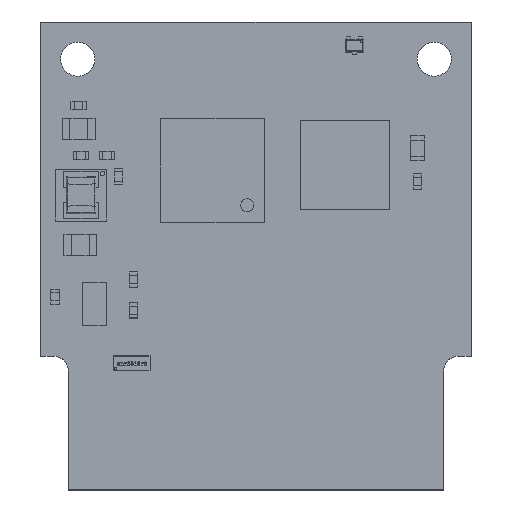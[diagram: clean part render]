
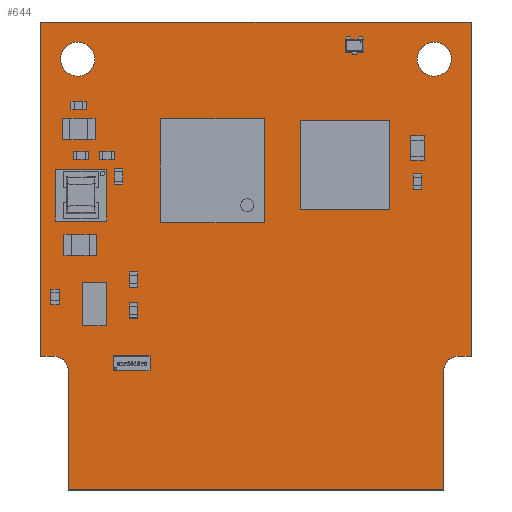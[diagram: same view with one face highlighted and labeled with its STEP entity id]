
A CAD part, top view. The second image highlights one B-rep face of the part: STEP entity #644.
In plain terms, the highlighted planar face has unit normal (0, 0, 1).
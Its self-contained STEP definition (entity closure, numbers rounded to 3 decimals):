
#247 = VERTEX_POINT('',#248);
#248 = CARTESIAN_POINT('',(-0.63,-21.,0.));
#254 = EDGE_CURVE('',#247,#255,#257,.T.);
#255 = VERTEX_POINT('',#256);
#256 = CARTESIAN_POINT('',(-1.63,-20.,0.));
#257 = CIRCLE('',#258,1.);
#258 = AXIS2_PLACEMENT_3D('',#259,#260,#261);
#259 = CARTESIAN_POINT('',(-1.63,-21.,0.));
#260 = DIRECTION('',(0.,0.,1.));
#261 = DIRECTION('',(1.,0.,0.));
#287 = EDGE_CURVE('',#255,#288,#290,.T.);
#288 = VERTEX_POINT('',#289);
#289 = CARTESIAN_POINT('',(-2.5,-20.,0.));
#290 = LINE('',#291,#292);
#291 = CARTESIAN_POINT('',(-1.63,-20.,0.));
#292 = VECTOR('',#293,1.);
#293 = DIRECTION('',(-1.,0.,0.));
#318 = EDGE_CURVE('',#288,#319,#321,.T.);
#319 = VERTEX_POINT('',#320);
#320 = CARTESIAN_POINT('',(-2.5,2.5,0.));
#321 = LINE('',#322,#323);
#322 = CARTESIAN_POINT('',(-2.5,-20.,0.));
#323 = VECTOR('',#324,1.);
#324 = DIRECTION('',(0.,1.,0.));
#349 = EDGE_CURVE('',#319,#350,#352,.T.);
#350 = VERTEX_POINT('',#351);
#351 = CARTESIAN_POINT('',(26.5,2.5,0.));
#352 = LINE('',#353,#354);
#353 = CARTESIAN_POINT('',(-2.5,2.5,0.));
#354 = VECTOR('',#355,1.);
#355 = DIRECTION('',(1.,0.,0.));
#380 = EDGE_CURVE('',#350,#381,#383,.T.);
#381 = VERTEX_POINT('',#382);
#382 = CARTESIAN_POINT('',(26.5,-20.,0.));
#383 = LINE('',#384,#385);
#384 = CARTESIAN_POINT('',(26.5,2.5,0.));
#385 = VECTOR('',#386,1.);
#386 = DIRECTION('',(0.,-1.,0.));
#411 = EDGE_CURVE('',#381,#412,#414,.T.);
#412 = VERTEX_POINT('',#413);
#413 = CARTESIAN_POINT('',(25.63,-20.,0.));
#414 = LINE('',#415,#416);
#415 = CARTESIAN_POINT('',(26.5,-20.,0.));
#416 = VECTOR('',#417,1.);
#417 = DIRECTION('',(-1.,0.,0.));
#442 = EDGE_CURVE('',#412,#443,#445,.T.);
#443 = VERTEX_POINT('',#444);
#444 = CARTESIAN_POINT('',(24.63,-21.,0.));
#445 = CIRCLE('',#446,1.);
#446 = AXIS2_PLACEMENT_3D('',#447,#448,#449);
#447 = CARTESIAN_POINT('',(25.63,-21.,0.));
#448 = DIRECTION('',(0.,0.,1.));
#449 = DIRECTION('',(0.,1.,0.));
#475 = EDGE_CURVE('',#443,#476,#478,.T.);
#476 = VERTEX_POINT('',#477);
#477 = CARTESIAN_POINT('',(24.63,-29.,0.));
#478 = LINE('',#479,#480);
#479 = CARTESIAN_POINT('',(24.63,-21.,0.));
#480 = VECTOR('',#481,1.);
#481 = DIRECTION('',(0.,-1.,0.));
#506 = EDGE_CURVE('',#476,#507,#509,.T.);
#507 = VERTEX_POINT('',#508);
#508 = CARTESIAN_POINT('',(-0.63,-29.,0.));
#509 = LINE('',#510,#511);
#510 = CARTESIAN_POINT('',(24.63,-29.,0.));
#511 = VECTOR('',#512,1.);
#512 = DIRECTION('',(-1.,0.,0.));
#537 = EDGE_CURVE('',#507,#247,#538,.T.);
#538 = LINE('',#539,#540);
#539 = CARTESIAN_POINT('',(-0.63,-29.,0.));
#540 = VECTOR('',#541,1.);
#541 = DIRECTION('',(0.,1.,0.));
#561 = VERTEX_POINT('',#562);
#562 = CARTESIAN_POINT('',(1.15,0.,0.));
#568 = EDGE_CURVE('',#561,#561,#569,.T.);
#569 = CIRCLE('',#570,1.15);
#570 = AXIS2_PLACEMENT_3D('',#571,#572,#573);
#571 = CARTESIAN_POINT('',(0.,0.,0.));
#572 = DIRECTION('',(0.,0.,1.));
#573 = DIRECTION('',(1.,0.,0.));
#594 = VERTEX_POINT('',#595);
#595 = CARTESIAN_POINT('',(25.15,0.,0.));
#601 = EDGE_CURVE('',#594,#594,#602,.T.);
#602 = CIRCLE('',#603,1.15);
#603 = AXIS2_PLACEMENT_3D('',#604,#605,#606);
#604 = CARTESIAN_POINT('',(24.,0.,0.));
#605 = DIRECTION('',(0.,0.,1.));
#606 = DIRECTION('',(1.,0.,0.));
#644 = ADVANCED_FACE('',(#645,#657,#660),#663,.F.);
#645 = FACE_BOUND('',#646,.F.);
#646 = EDGE_LOOP('',(#647,#648,#649,#650,#651,#652,#653,#654,#655,#656)
  );
#647 = ORIENTED_EDGE('',*,*,#254,.T.);
#648 = ORIENTED_EDGE('',*,*,#287,.T.);
#649 = ORIENTED_EDGE('',*,*,#318,.T.);
#650 = ORIENTED_EDGE('',*,*,#349,.T.);
#651 = ORIENTED_EDGE('',*,*,#380,.T.);
#652 = ORIENTED_EDGE('',*,*,#411,.T.);
#653 = ORIENTED_EDGE('',*,*,#442,.T.);
#654 = ORIENTED_EDGE('',*,*,#475,.T.);
#655 = ORIENTED_EDGE('',*,*,#506,.T.);
#656 = ORIENTED_EDGE('',*,*,#537,.T.);
#657 = FACE_BOUND('',#658,.F.);
#658 = EDGE_LOOP('',(#659));
#659 = ORIENTED_EDGE('',*,*,#568,.T.);
#660 = FACE_BOUND('',#661,.F.);
#661 = EDGE_LOOP('',(#662));
#662 = ORIENTED_EDGE('',*,*,#601,.T.);
#663 = PLANE('',#664);
#664 = AXIS2_PLACEMENT_3D('',#665,#666,#667);
#665 = CARTESIAN_POINT('',(-0.63,-21.,0.));
#666 = DIRECTION('',(0.,0.,-1.));
#667 = DIRECTION('',(-1.,0.,0.));
